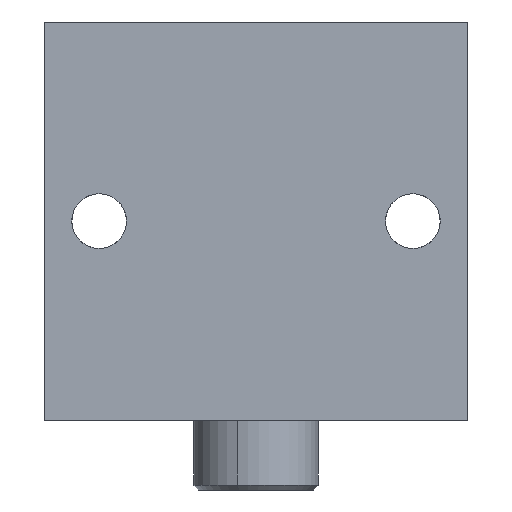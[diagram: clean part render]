
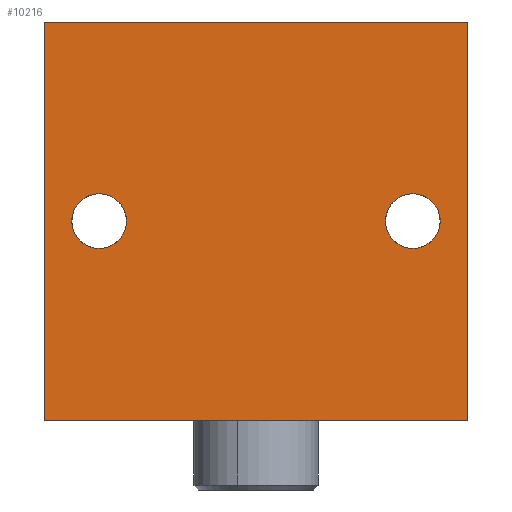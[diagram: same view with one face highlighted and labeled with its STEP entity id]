
A CAD part, front view. The second image highlights one B-rep face of the part: STEP entity #10216.
In plain terms, the highlighted planar face has unit normal (0, -1, 0).
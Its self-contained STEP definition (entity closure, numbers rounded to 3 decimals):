
#75 = EDGE_CURVE ( 'NONE', #5622, #1155, #12848, .T. ) ;
#97 = DIRECTION ( 'NONE',  ( 0., 1., 0. ) ) ;
#125 = DIRECTION ( 'NONE',  ( 0., 0., 1. ) ) ;
#135 = EDGE_CURVE ( 'NONE', #1155, #8394, #5262, .T. ) ;
#160 = DIRECTION ( 'NONE',  ( 0., 1., 0. ) ) ;
#187 = CARTESIAN_POINT ( 'NONE',  ( -31.5, 0., 7.5 ) ) ;
#221 = EDGE_CURVE ( 'NONE', #8394, #13155, #14340, .T. ) ;
#239 = ORIENTED_EDGE ( 'NONE', *, *, #135, .F. ) ;
#244 = EDGE_CURVE ( 'NONE', #8446, #9322, #3978, .T. ) ;
#248 = EDGE_CURVE ( 'NONE', #7721, #7186, #405, .T. ) ;
#330 = CARTESIAN_POINT ( 'NONE',  ( 42.5, 0., -32.5 ) ) ;
#405 = CIRCLE ( 'NONE', #14381, 5.5 ) ;
#455 = AXIS2_PLACEMENT_3D ( 'NONE', #4729, #13713, #6013 ) ;
#550 = ORIENTED_EDGE ( 'NONE', *, *, #244, .T. ) ;
#852 = DIRECTION ( 'NONE',  ( 0., 1., 0. ) ) ;
#1155 = VERTEX_POINT ( 'NONE', #12717 ) ;
#1372 = VECTOR ( 'NONE', #17480, 1000. ) ;
#1506 = LINE ( 'NONE', #15945, #15324 ) ;
#1545 = CARTESIAN_POINT ( 'NONE',  ( -31.5, 0., 2. ) ) ;
#1559 = CARTESIAN_POINT ( 'NONE',  ( -42.5, 0., 47.5 ) ) ;
#1978 = ORIENTED_EDGE ( 'NONE', *, *, #14717, .T. ) ;
#2788 = DIRECTION ( 'NONE',  ( 0., 0., 1. ) ) ;
#2847 = DIRECTION ( 'NONE',  ( 0., 0., 1. ) ) ;
#3153 = ORIENTED_EDGE ( 'NONE', *, *, #221, .F. ) ;
#3588 = CARTESIAN_POINT ( 'NONE',  ( 31.5, 0., 7.5 ) ) ;
#3758 = FACE_BOUND ( 'NONE', #11206, .T. ) ;
#3905 = CIRCLE ( 'NONE', #455, 5.5 ) ;
#3978 = CIRCLE ( 'NONE', #12548, 5.5 ) ;
#4178 = ORIENTED_EDGE ( 'NONE', *, *, #248, .T. ) ;
#4205 = FACE_BOUND ( 'NONE', #8738, .T. ) ;
#4607 = EDGE_LOOP ( 'NONE', ( #9475, #3153, #239, #10954 ) ) ;
#4729 = CARTESIAN_POINT ( 'NONE',  ( 31.5, 0., 7.5 ) ) ;
#5262 = LINE ( 'NONE', #17353, #1372 ) ;
#5622 = VERTEX_POINT ( 'NONE', #1559 ) ;
#6013 = DIRECTION ( 'NONE',  ( 0., 0., 1. ) ) ;
#6453 = VECTOR ( 'NONE', #16180, 1000. ) ;
#6837 = CARTESIAN_POINT ( 'NONE',  ( 0., 0., 0. ) ) ;
#7104 = CARTESIAN_POINT ( 'NONE',  ( 31.5, 0., 2. ) ) ;
#7186 = VERTEX_POINT ( 'NONE', #7104 ) ;
#7324 = CIRCLE ( 'NONE', #11503, 5.5 ) ;
#7721 = VERTEX_POINT ( 'NONE', #7733 ) ;
#7733 = CARTESIAN_POINT ( 'NONE',  ( 31.5, 0., 13. ) ) ;
#8394 = VERTEX_POINT ( 'NONE', #330 ) ;
#8446 = VERTEX_POINT ( 'NONE', #8624 ) ;
#8624 = CARTESIAN_POINT ( 'NONE',  ( -31.5, 0., 13. ) ) ;
#8738 = EDGE_LOOP ( 'NONE', ( #4178, #1978 ) ) ;
#8997 = CARTESIAN_POINT ( 'NONE',  ( -31.5, 0., 7.5 ) ) ;
#9322 = VERTEX_POINT ( 'NONE', #1545 ) ;
#9475 = ORIENTED_EDGE ( 'NONE', *, *, #17295, .F. ) ;
#9870 = ORIENTED_EDGE ( 'NONE', *, *, #16172, .T. ) ;
#10216 = ADVANCED_FACE ( 'NONE', ( #3758, #4205, #17384 ), #13262, .F. ) ;
#10241 = DIRECTION ( 'NONE',  ( 0., 0., 1. ) ) ;
#10613 = DIRECTION ( 'NONE',  ( 0., 1., 0. ) ) ;
#10734 = VECTOR ( 'NONE', #12690, 1000. ) ;
#10954 = ORIENTED_EDGE ( 'NONE', *, *, #75, .F. ) ;
#11206 = EDGE_LOOP ( 'NONE', ( #550, #9870 ) ) ;
#11503 = AXIS2_PLACEMENT_3D ( 'NONE', #8997, #852, #10241 ) ;
#11924 = AXIS2_PLACEMENT_3D ( 'NONE', #6837, #10613, #2847 ) ;
#12548 = AXIS2_PLACEMENT_3D ( 'NONE', #187, #160, #125 ) ;
#12690 = DIRECTION ( 'NONE',  ( -1., 0., 0. ) ) ;
#12717 = CARTESIAN_POINT ( 'NONE',  ( 42.5, 0., 47.5 ) ) ;
#12734 = DIRECTION ( 'NONE',  ( 0., 0., 1. ) ) ;
#12848 = LINE ( 'NONE', #16061, #6453 ) ;
#13155 = VERTEX_POINT ( 'NONE', #13297 ) ;
#13262 = PLANE ( 'NONE',  #11924 ) ;
#13297 = CARTESIAN_POINT ( 'NONE',  ( -42.5, 0., -32.5 ) ) ;
#13713 = DIRECTION ( 'NONE',  ( 0., 1., 0. ) ) ;
#14340 = LINE ( 'NONE', #17594, #10734 ) ;
#14381 = AXIS2_PLACEMENT_3D ( 'NONE', #3588, #97, #12734 ) ;
#14717 = EDGE_CURVE ( 'NONE', #7186, #7721, #3905, .T. ) ;
#15324 = VECTOR ( 'NONE', #2788, 1000. ) ;
#15945 = CARTESIAN_POINT ( 'NONE',  ( -42.5, 0., -32.5 ) ) ;
#16061 = CARTESIAN_POINT ( 'NONE',  ( -42.5, 0., 47.5 ) ) ;
#16172 = EDGE_CURVE ( 'NONE', #9322, #8446, #7324, .T. ) ;
#16180 = DIRECTION ( 'NONE',  ( 1., 0., 0. ) ) ;
#17295 = EDGE_CURVE ( 'NONE', #13155, #5622, #1506, .T. ) ;
#17353 = CARTESIAN_POINT ( 'NONE',  ( 42.5, 0., -32.5 ) ) ;
#17384 = FACE_OUTER_BOUND ( 'NONE', #4607, .T. ) ;
#17480 = DIRECTION ( 'NONE',  ( 0., 0., -1. ) ) ;
#17594 = CARTESIAN_POINT ( 'NONE',  ( -42.5, 0., -32.5 ) ) ;
